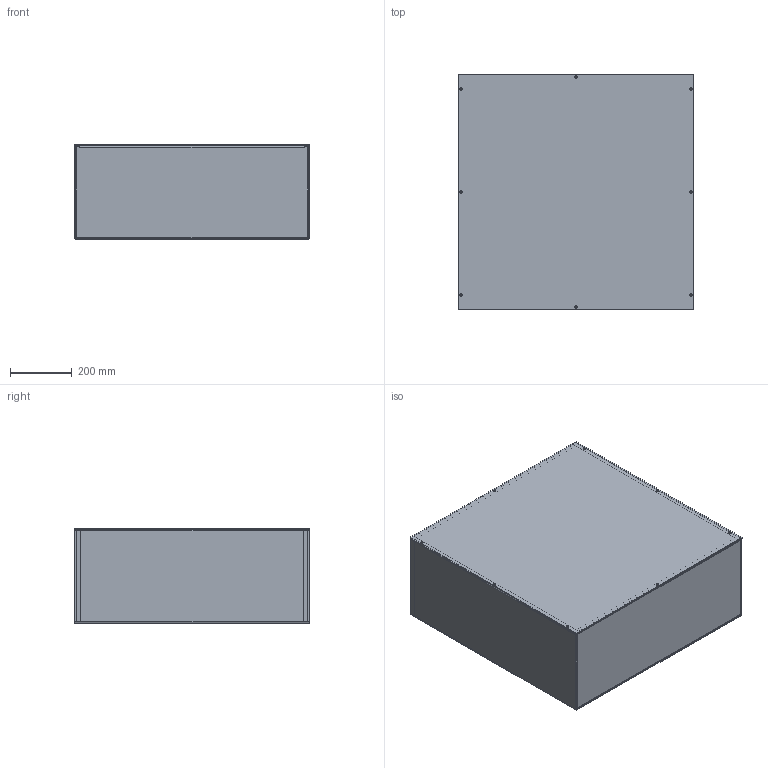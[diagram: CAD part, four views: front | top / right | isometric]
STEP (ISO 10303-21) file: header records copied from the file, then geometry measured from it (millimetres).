
FILE_DESCRIPTION (( 'STEP AP203' ), '1' );
FILE_NAME ('asg30x30x12nk.STEP', '2011-02-15T16:44:54', ( 'Hoffman User' ), ( 'Hoffman Enclosures' ), 'SwSTEP 2.0', 'SolidWorks 2009', '' );
FILE_SCHEMA (( 'CONFIG_CONTROL_DESIGN' ));
Length unit declared in the file: inch
Products named in the file (5): 89054654_WELDMENT; 87758098; 42215051; asg30x30x12nk; 87758100
Assembly tree (5 placements, depth 3):
  asg30x30x12nk
    89054654_WELDMENT
      87758100  x2
      87758098
    42215051
Bounding box: 762 x 762 x 307.26 mm (x, y, z)
Volume: 5305375.3 mm3; surface area: 4337039.9 mm2
Topology: 4 solids, 4 shells, 189 faces, 434 edges, 256 vertices
Faces by surface type: plane 99, cylinder 68, torus 10, bspline 8, cone 4
Entity records: 5237 total; most frequent: CARTESIAN_POINT 1218, DIRECTION 770, ORIENTED_EDGE 676, EDGE_CURVE 338, AXIS2_PLACEMENT_3D 290, VERTEX_POINT 202, VECTOR 190, LINE 190
